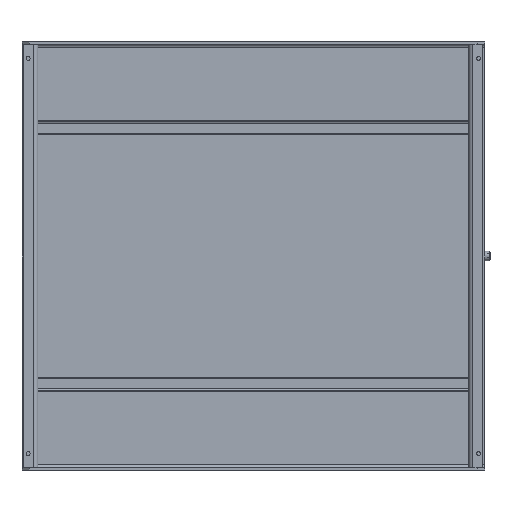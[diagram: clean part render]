
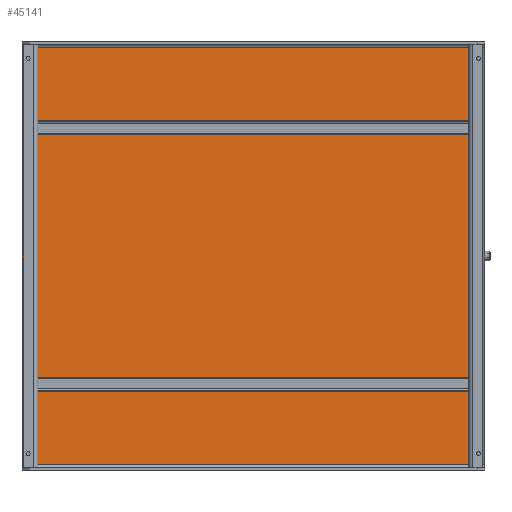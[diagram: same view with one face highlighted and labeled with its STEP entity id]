
A CAD part, front view. The second image highlights one B-rep face of the part: STEP entity #45141.
In plain terms, the highlighted planar face has unit normal (0, -1, 0).
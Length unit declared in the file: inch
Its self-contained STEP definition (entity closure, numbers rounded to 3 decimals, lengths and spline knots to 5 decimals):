
#1830 = CARTESIAN_POINT ( 'NONE',  ( 20.40828, -3.42689, 26.38631 ) ) ;
#7230 = DIRECTION ( 'NONE',  ( -1., 0., 0. ) ) ;
#11937 = VERTEX_POINT ( 'NONE', #51072 ) ;
#14975 = VECTOR ( 'NONE', #30634, 39.37008 ) ;
#15294 = EDGE_CURVE ( 'NONE', #62488, #48291, #45893, .T. ) ;
#17695 = CARTESIAN_POINT ( 'NONE',  ( -45.59172, -3.42689, 25.54251 ) ) ;
#20647 = EDGE_CURVE ( 'NONE', #48291, #11937, #47250, .T. ) ;
#26891 = VECTOR ( 'NONE', #61144, 39.37008 ) ;
#28266 = VECTOR ( 'NONE', #51893, 39.37008 ) ;
#30053 = DIRECTION ( 'NONE',  ( 0., 0., -1. ) ) ;
#30634 = DIRECTION ( 'NONE',  ( 0., 0., 1. ) ) ;
#31530 = ORIENTED_EDGE ( 'NONE', *, *, #55484, .F. ) ;
#31829 = CARTESIAN_POINT ( 'NONE',  ( -45.59172, -3.42689, -33.89489 ) ) ;
#33339 = VERTEX_POINT ( 'NONE', #31829 ) ;
#33787 = ORIENTED_EDGE ( 'NONE', *, *, #20647, .F. ) ;
#35723 = CARTESIAN_POINT ( 'NONE',  ( 20.40828, -3.42689, -33.89489 ) ) ;
#36948 = CARTESIAN_POINT ( 'NONE',  ( -45.59172, -3.42689, -34.73869 ) ) ;
#44080 = VECTOR ( 'NONE', #7230, 39.37008 ) ;
#45141 = ADVANCED_FACE ( 'NONE', ( #50760 ), #65715, .T. ) ;
#45893 = LINE ( 'NONE', #60832, #26891 ) ;
#47250 = LINE ( 'NONE', #1830, #28266 ) ;
#48291 = VERTEX_POINT ( 'NONE', #54068 ) ;
#50494 = ORIENTED_EDGE ( 'NONE', *, *, #68416, .F. ) ;
#50760 = FACE_OUTER_BOUND ( 'NONE', #82973, .T. ) ;
#51072 = CARTESIAN_POINT ( 'NONE',  ( 20.40828, -3.42689, -33.89489 ) ) ;
#51893 = DIRECTION ( 'NONE',  ( 0., 0., -1. ) ) ;
#54068 = CARTESIAN_POINT ( 'NONE',  ( 20.40828, -3.42689, 25.54251 ) ) ;
#55484 = EDGE_CURVE ( 'NONE', #11937, #33339, #63154, .T. ) ;
#60832 = CARTESIAN_POINT ( 'NONE',  ( -45.59172, -3.42689, 25.54251 ) ) ;
#61144 = DIRECTION ( 'NONE',  ( 1., 0., 0. ) ) ;
#61863 = ORIENTED_EDGE ( 'NONE', *, *, #15294, .F. ) ;
#62488 = VERTEX_POINT ( 'NONE', #17695 ) ;
#63154 = LINE ( 'NONE', #35723, #44080 ) ;
#65715 = PLANE ( 'NONE',  #78518 ) ;
#66329 = CARTESIAN_POINT ( 'NONE',  ( -45.59172, -3.42689, 26.38631 ) ) ;
#68416 = EDGE_CURVE ( 'NONE', #33339, #62488, #91212, .T. ) ;
#72921 = DIRECTION ( 'NONE',  ( 0., -1., 0. ) ) ;
#78518 = AXIS2_PLACEMENT_3D ( 'NONE', #36948, #72921, #30053 ) ;
#82973 = EDGE_LOOP ( 'NONE', ( #50494, #31530, #33787, #61863 ) ) ;
#91212 = LINE ( 'NONE', #66329, #14975 ) ;
